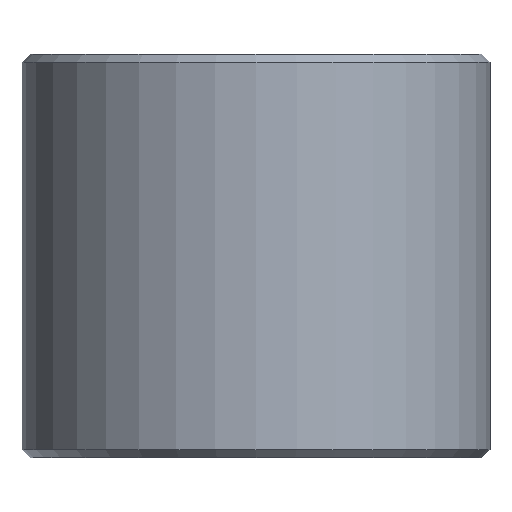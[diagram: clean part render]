
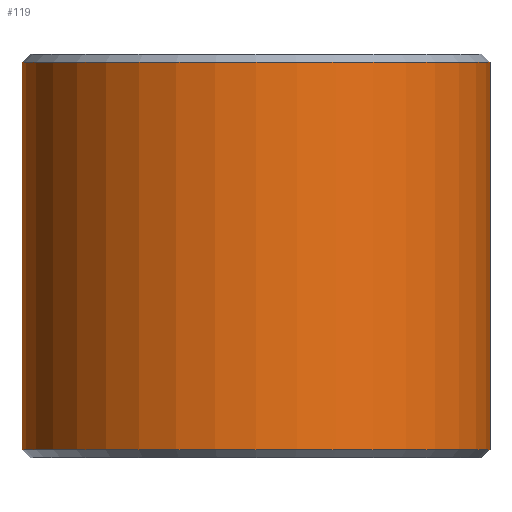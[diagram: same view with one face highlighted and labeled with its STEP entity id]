
A CAD part, front view. The second image highlights one B-rep face of the part: STEP entity #119.
In plain terms, the highlighted cylindrical face has radius 14.5 mm (diameter 29 mm), a full revolution.
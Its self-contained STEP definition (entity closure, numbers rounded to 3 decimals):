
#20=CYLINDRICAL_SURFACE('',#148,14.5);
#27=FACE_OUTER_BOUND('',#37,.T.);
#37=EDGE_LOOP('',(#101,#102,#103,#104));
#43=LINE('',#219,#49);
#49=VECTOR('',#187,14.5);
#57=CIRCLE('',#147,14.5);
#58=CIRCLE('',#149,14.5);
#65=VERTEX_POINT('',#213);
#66=VERTEX_POINT('',#217);
#77=EDGE_CURVE('',#65,#65,#57,.T.);
#78=EDGE_CURVE('',#66,#66,#58,.T.);
#79=EDGE_CURVE('',#66,#65,#43,.T.);
#101=ORIENTED_EDGE('',*,*,#78,.F.);
#102=ORIENTED_EDGE('',*,*,#79,.T.);
#103=ORIENTED_EDGE('',*,*,#77,.F.);
#104=ORIENTED_EDGE('',*,*,#79,.F.);
#119=ADVANCED_FACE('',(#27),#20,.T.);
#147=AXIS2_PLACEMENT_3D('',#215,#181,#182);
#148=AXIS2_PLACEMENT_3D('',#216,#183,#184);
#149=AXIS2_PLACEMENT_3D('',#218,#185,#186);
#181=DIRECTION('center_axis',(0.,0.,-1.));
#182=DIRECTION('ref_axis',(-1.,0.,0.));
#183=DIRECTION('center_axis',(0.,0.,1.));
#184=DIRECTION('ref_axis',(-1.,0.,0.));
#185=DIRECTION('center_axis',(0.,0.,1.));
#186=DIRECTION('ref_axis',(-1.,0.,0.));
#187=DIRECTION('',(0.,0.,-1.));
#213=CARTESIAN_POINT('',(14.5,0.,0.5));
#215=CARTESIAN_POINT('Origin',(0.,0.,0.5));
#216=CARTESIAN_POINT('Origin',(0.,0.,0.));
#217=CARTESIAN_POINT('',(14.5,0.,24.5));
#218=CARTESIAN_POINT('Origin',(0.,0.,24.5));
#219=CARTESIAN_POINT('',(14.5,0.,0.));
